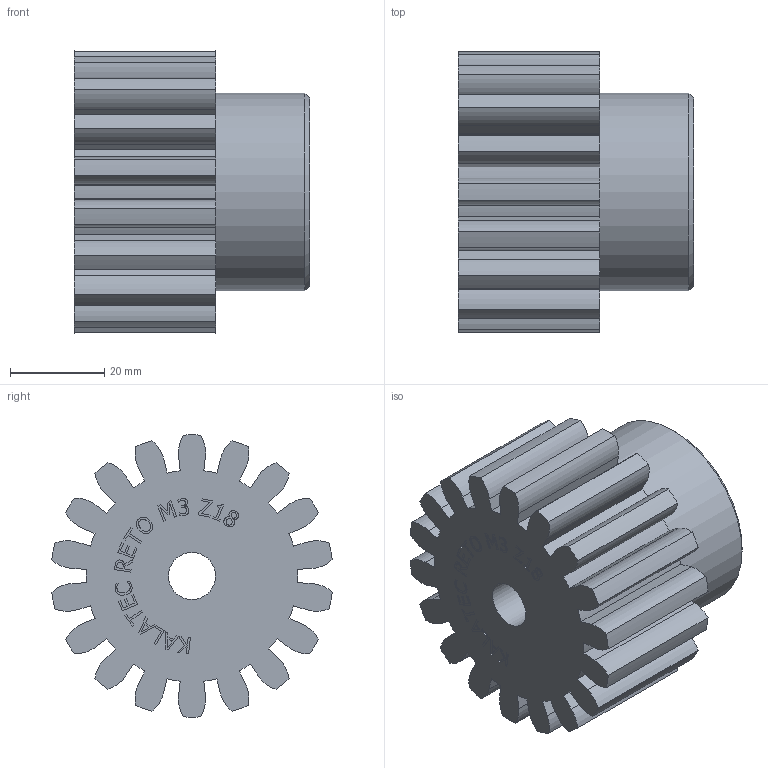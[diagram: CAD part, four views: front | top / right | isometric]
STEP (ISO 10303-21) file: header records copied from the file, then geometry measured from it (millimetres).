
FILE_DESCRIPTION(/* description */ (''),/* implementation_level */ '2;1');
FILE_NAME(/* name */ '\\JOINapp01\Profiles\martins\Desktop\ENGRENAGEM\ENGRENAGEM CORRETA\ENG DENTE RETO M3 Z18.step',/* time_stamp */ '2018-07-03T16:59:57-03:00',/* author */ ('martins'),/* organization */ (''),/* preprocessor_version */ 'ST-DEVELOPER v16.1',/* originating_system */ 'Autodesk Inventor 2016',/* authorisation */ '');
FILE_SCHEMA (('AUTOMOTIVE_DESIGN { 1 0 10303 214 3 1 1 }'));
Length unit declared in the file: millimetre
Products named in the file (1): ENG DENTE RETO M3 Z18
Bounding box: 50 x 59.61 x 59.99 mm (x, y, z)
Volume: 92793.1 mm3; surface area: 20526.4 mm2
Topology: 1 solids, 1 shells, 349 faces, 977 edges, 651 vertices
Faces by surface type: plane 198, bspline 76, cylinder 74, cone 1
Full cylindrical faces by diameter (mm): 10 x1, 42 x1
Entity records: 11827 total; most frequent: CARTESIAN_POINT 3189, ORIENTED_EDGE 1948, DIRECTION 1519, EDGE_CURVE 974, LINE 673, VECTOR 673, VERTEX_POINT 651, AXIS2_PLACEMENT_3D 423
